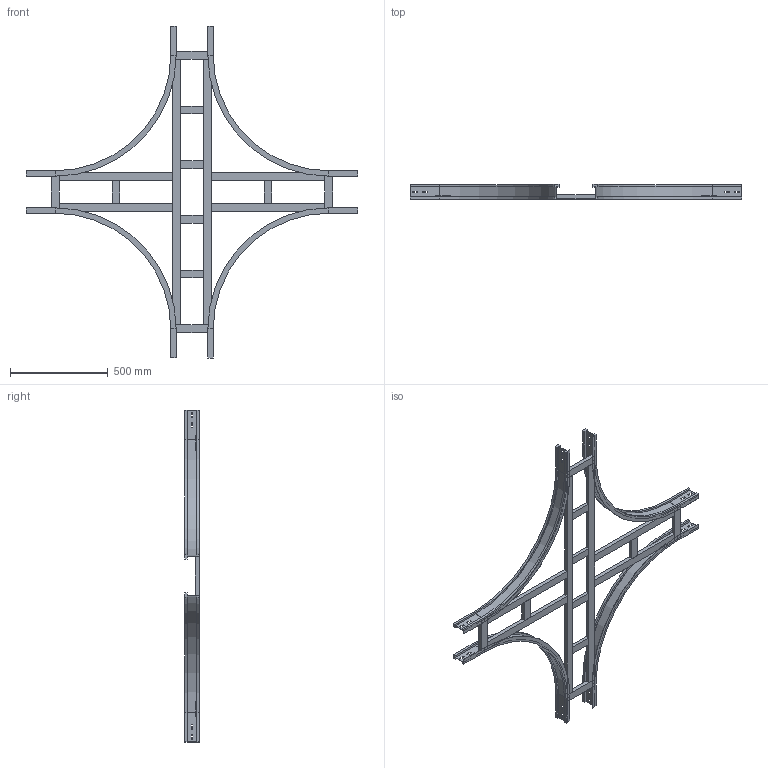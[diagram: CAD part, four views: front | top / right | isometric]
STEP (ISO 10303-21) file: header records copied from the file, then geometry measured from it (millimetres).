
FILE_DESCRIPTION (( 'STEP AP214' ), '1' );
FILE_NAME ('17S6C200.step', '2025-02-21T16:18:57', ( '' ), ( '' ), 'SwSTEP 2.0', 'SolidWorks 2023', '' );
FILE_SCHEMA (( 'AUTOMOTIVE_DESIGN' ));
Length unit declared in the file: millimetre
Products named in the file (7): TRAVERSINO_VERT_R600; TRAVERSINO_COPPIA_200; TRAVERSINO_200; 17S6C200; TRAVERSINO_INTERMEDIO_X_R600+200; TRAVERSINO_LONG._R600+200; LONGH.INTERNO 90°_H75_R600
Assembly tree (20 placements, depth 2):
  17S6C200
    LONGH.INTERNO 90°_H75_R600  x4
    TRAVERSINO_200  x4
    TRAVERSINO_LONG._R600+200  x2
    TRAVERSINO_INTERMEDIO_X_R600+200  x4
    TRAVERSINO_VERT_R600  x4
    TRAVERSINO_COPPIA_200  x2
Bounding box: 1700 x 75 x 1700 mm (x, y, z)
Volume: 7733603.5 mm3; surface area: 2044429.8 mm2
Topology: 20 solids, 20 shells, 312 faces, 720 edges, 448 vertices
Faces by surface type: plane 288, cylinder 24
Entity records: 2644 total; most frequent: CARTESIAN_POINT 419, DIRECTION 418, ORIENTED_EDGE 384, EDGE_CURVE 192, VECTOR 180, LINE 180, VERTEX_POINT 120, AXIS2_PLACEMENT_3D 119
